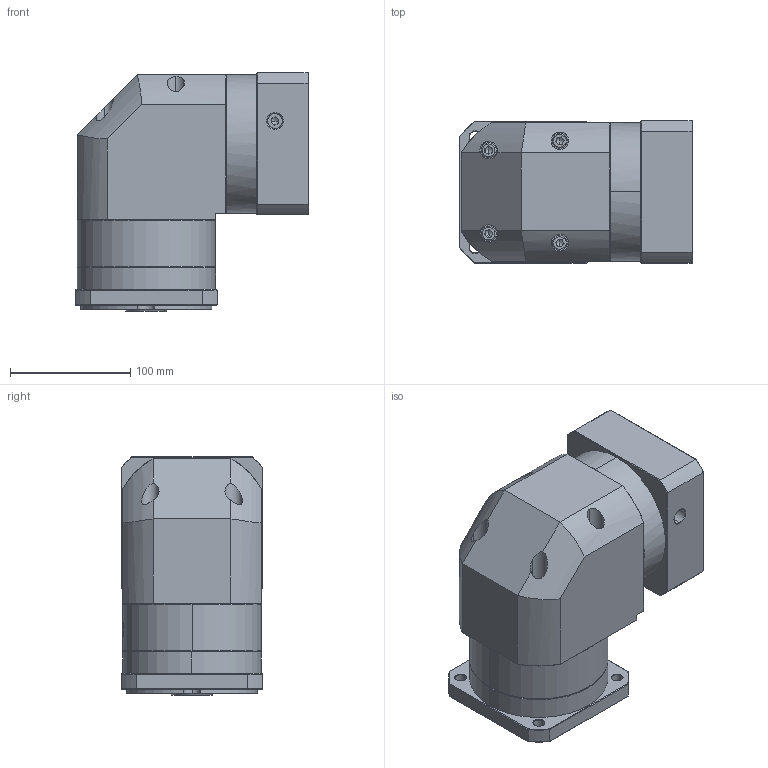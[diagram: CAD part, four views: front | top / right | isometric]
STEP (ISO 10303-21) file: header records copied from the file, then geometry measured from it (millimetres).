
FILE_DESCRIPTION (( 'STEP AP214' ), '1' );
FILE_NAME ('ZFR120A-K25-L1-P2-19-95-130-M8.step', '2023-08-27T08:13:04', ( '' ), ( '' ), 'SwSTEP 2.0', 'SolidWorks 2016', '' );
FILE_SCHEMA (( 'AUTOMOTIVE_DESIGN' ));
Length unit declared in the file: millimetre
Products named in the file (1): ZFR120A-K25-L1-P2-19-95-130-M8
Bounding box: 193.9 x 118 x 198 mm (x, y, z)
Volume: 2851426.9 mm3; surface area: 242385.6 mm2
Topology: 6 solids, 6 shells, 2208 faces, 5835 edges, 3732 vertices
Faces by surface type: plane 1054, bspline 415, cylinder 401, cone 330, torus 8
Entity records: 118707 total; most frequent: CARTESIAN_POINT 45045, ORIENTED_EDGE 11614, DIRECTION 8441, EDGE_CURVE 5807, VERTEX_POINT 3732, VECTOR 3105, LINE 3105, AXIS2_PLACEMENT_3D 2668
